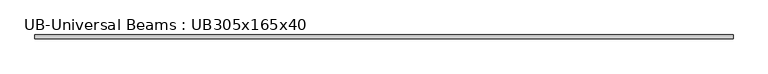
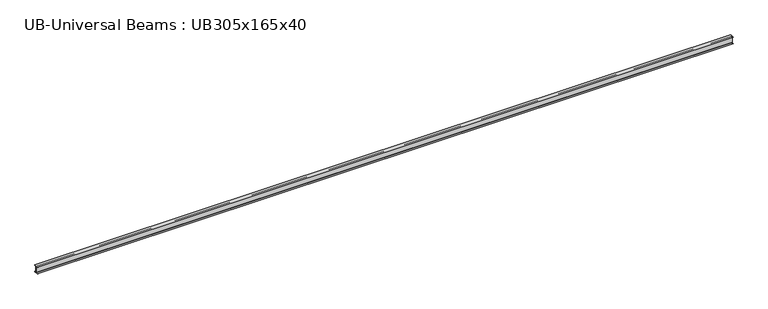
"""IFC4 building model written with IfcOpenShell, lengths in millimetres: beam geometry, UB-Universal Beams : UB305x165x40."""

import ifcopenshell
import ifcopenshell.guid

model = None  # the IFC model being written
_history = None  # IfcOwnerHistory: only IFC2X3 demands one
_inside = {}  # id of a spatial element -> (the spatial element, [elements in it])
_under = {}  # id of a project, library or spatial element -> (it, [spatial elements below it])
_declared = {}  # id of a project -> (the project, [libraries it declares])
_typed = {}  # id of a type object -> (the type object, [elements of that type])
_made_of = {}  # id of a material, layer set ... -> (it, [elements and type objects made of it])


def new_model(schema):
    """Start an empty IFC model of exactly this schema.

    Asked for "IFC4X3", IfcOpenShell would pick the latest addendum, in which some entities
    have other attributes; the version numbers below select the first issue.
    IFC2X3 requires an IfcOwnerHistory on every rooted entity: one is made here for all.
    """
    global model, _history
    if schema == "IFC4X3":
        model = ifcopenshell.file(schema_version=(4, 3, 0, 0))
    else:
        model = ifcopenshell.file(schema=schema)
    _inside.clear()
    _under.clear()
    _declared.clear()
    _typed.clear()
    _made_of.clear()
    _history = None
    if model.schema == "IFC2X3":
        org = make("IfcOrganization", Name="unknown")
        user = make(
            "IfcPersonAndOrganization",
            ThePerson=make("IfcPerson", FamilyName="unknown"),
            TheOrganization=org,
        )
        app = make(
            "IfcApplication",
            ApplicationDeveloper=org,
            Version="unknown",
            ApplicationFullName="unknown",
            ApplicationIdentifier="unknown",
        )
        _history = make(
            "IfcOwnerHistory",
            OwningUser=user,
            OwningApplication=app,
            ChangeAction="ADDED",
            CreationDate=0,
        )
    return model


def make(cls, **values):
    """One entity of the class cls with the attributes given. An attribute that is None is left unset."""
    return model.create_entity(
        cls, **{name: value for name, value in values.items() if value is not None}
    )


def rooted(cls, **values):
    """An entity with a GlobalId (a new one), such as an element, a storey or a relation."""
    return make(cls, GlobalId=ifcopenshell.guid.new(), OwnerHistory=_history, **values)


def si_unit(unit_type, name, prefix=None):
    """IfcSIUnit, for example si_unit("LENGTHUNIT", "METRE", prefix="MILLI")."""
    return make("IfcSIUnit", UnitType=unit_type, Prefix=prefix, Name=name)


def assignment(units):
    """IfcUnitAssignment: the units of a project."""
    return None if units is None else make("IfcUnitAssignment", Units=units)


def point(xyz):
    """IfcCartesianPoint."""
    return None if xyz is None else make("IfcCartesianPoint", Coordinates=xyz)


def direction(xyz):
    """IfcDirection."""
    return None if xyz is None else make("IfcDirection", DirectionRatios=xyz)


def frame(location, z_axis=None, x_axis=None):
    """IfcAxis2Placement3D, a coordinate frame: its origin and axes. An axis left out is left unset."""
    return make(
        "IfcAxis2Placement3D",
        Location=point(location),
        Axis=direction(z_axis),
        RefDirection=direction(x_axis),
    )


def frame_2d(location, x_axis=None):
    """IfcAxis2Placement2D, a coordinate frame in the plane: its origin and x axis."""
    return make(
        "IfcAxis2Placement2D", Location=point(location), RefDirection=direction(x_axis)
    )


def origin():
    """The frame at (0, 0, 0) with its axes left unset."""
    return frame((0.0, 0.0, 0.0))


def place(relative_to, where):
    """IfcLocalPlacement: puts the frame where relative to a parent placement (None: the world)."""
    return make(
        "IfcLocalPlacement", PlacementRelTo=relative_to, RelativePlacement=where
    )


def context(
    kind, dimensions, precision=None, world=None, true_north=None, identifier=None
):
    """IfcGeometricRepresentationContext, for example the 3D "Model" context."""
    return make(
        "IfcGeometricRepresentationContext",
        ContextIdentifier=identifier,
        ContextType=kind,
        CoordinateSpaceDimension=dimensions,
        Precision=precision,
        WorldCoordinateSystem=world,
        TrueNorth=true_north,
    )


def project(units=None, contexts=None):
    """IfcProject with its units and contexts."""
    return rooted(
        "IfcProject",
        Name="project",
        RepresentationContexts=contexts,
        UnitsInContext=assignment(units),
    )


def spatial(cls, under=None, at=None, **own):
    """A site, building, storey or space (cls), placed at a placement, below another one or the project."""
    s = rooted(cls, ObjectPlacement=at, **own)
    if under is not None:
        _under.setdefault(under.id(), (under, []))[1].append(s)
    return s


def polyline(points):
    """IfcPolyline through the points."""
    return make("IfcPolyline", Points=[point(p) for p in points])


def circle_curve(where, radius):
    """IfcCircle in the frame where."""
    return make("IfcCircle", Position=where, Radius=radius)


def trimmed(basis, trim1, trim2, sense, master):
    """IfcTrimmedCurve: the piece of a basis curve between two trims."""
    return make(
        "IfcTrimmedCurve",
        BasisCurve=basis,
        Trim1=trim1,
        Trim2=trim2,
        SenseAgreement=sense,
        MasterRepresentation=master,
    )


def segment(curve, same_sense, transition):
    """IfcCompositeCurveSegment."""
    return make(
        "IfcCompositeCurveSegment",
        Transition=transition,
        SameSense=same_sense,
        ParentCurve=curve,
    )


def composite_curve(segments, self_intersect=None):
    """IfcCompositeCurve: segments joined end to end."""
    return make("IfcCompositeCurve", Segments=segments, SelfIntersect=self_intersect)


def outline(outer, holes=None, kind="AREA"):
    """IfcArbitraryClosedProfileDef: a profile drawn as a closed curve; with holes, ...WithVoids."""
    if holes is None:
        return make("IfcArbitraryClosedProfileDef", ProfileType=kind, OuterCurve=outer)
    return make(
        "IfcArbitraryProfileDefWithVoids",
        ProfileType=kind,
        OuterCurve=outer,
        InnerCurves=holes,
    )


def extrude(swept, where, along, depth):
    """IfcExtrudedAreaSolid: the profile swept, set in the frame where, extruded along a direction by depth."""
    return make(
        "IfcExtrudedAreaSolid",
        SweptArea=swept,
        Position=where,
        ExtrudedDirection=direction(along),
        Depth=depth,
    )


def shape(context_of_items, identifier, shape_type, items):
    """IfcShapeRepresentation: the items that make up one representation, for example the "Body"."""
    return make(
        "IfcShapeRepresentation",
        ContextOfItems=context_of_items,
        RepresentationIdentifier=identifier,
        RepresentationType=shape_type,
        Items=items,
    )


def source(mapping_origin, context_of_items, identifier, shape_type, items):
    """IfcRepresentationMap: a shape defined once, which mapped items show again and again."""
    return make(
        "IfcRepresentationMap",
        MappingOrigin=mapping_origin,
        MappedRepresentation=shape(context_of_items, identifier, shape_type, items),
    )


def transform(
    local_origin,
    x_axis=None,
    y_axis=None,
    z_axis=None,
    scale=None,
    scale2=None,
    scale3=None,
    uniform=True,
):
    """IfcCartesianTransformationOperator3D, or its non-uniform kind. x_axis, y_axis, z_axis: its Axis1, 2, 3."""
    if uniform:
        return make(
            "IfcCartesianTransformationOperator3D",
            Axis1=direction(x_axis),
            Axis2=direction(y_axis),
            LocalOrigin=point(local_origin),
            Scale=scale,
            Axis3=direction(z_axis),
        )
    return make(
        "IfcCartesianTransformationOperator3DnonUniform",
        Axis1=direction(x_axis),
        Axis2=direction(y_axis),
        LocalOrigin=point(local_origin),
        Scale=scale,
        Axis3=direction(z_axis),
        Scale2=scale2,
        Scale3=scale3,
    )


def mapped(mapping_source, mapping_target):
    """IfcMappedItem: shows the shape of a source again, moved by a transform."""
    return make(
        "IfcMappedItem", MappingSource=mapping_source, MappingTarget=mapping_target
    )


def made_of(thing, what):
    """Note that an element or type object is made of a material, layer set ...; save() writes the relation."""
    if what is not None:
        _made_of.setdefault(what.id(), (what, []))[1].append(thing)
    return thing


def element(
    cls,
    number,
    at=None,
    inside=None,
    cuts=None,
    type_object=None,
    material=None,
    context=None,
    identifier="Body",
    shape_type=None,
    held_by="IfcProductDefinitionShape",
    body=None,
    shapes=None,
    **own,
):
    """One element of the class cls, such as IfcWall. Its Tag is "e" and its number.

    at: its placement. inside: the storey or other place that contains it. cuts: it is an
    opening in that element (IfcRelVoidsElement). A single representation is given by context,
    identifier, shape_type and body (its items); several are given by shapes. held_by: the class
    of the entity that holds the representations. save() writes the other relations.
    """
    e = rooted(cls, Tag="e%d" % number, ObjectPlacement=at, **own)
    if body is not None:
        shapes = [shape(context, identifier, shape_type, body)]
    if shapes is not None:
        e.Representation = make(held_by, Representations=shapes)
    if inside is not None:
        _inside.setdefault(inside.id(), (inside, []))[1].append(e)
    if cuts is not None:
        rooted(
            "IfcRelVoidsElement", RelatingBuildingElement=cuts, RelatedOpeningElement=e
        )
    if type_object is not None:
        _typed.setdefault(type_object.id(), (type_object, []))[1].append(e)
    return made_of(e, material)


def aggregate(whole, parts):
    """IfcRelAggregates: a whole, such as a stair, and the parts it consists of."""
    return rooted("IfcRelAggregates", RelatingObject=whole, RelatedObjects=parts)


def save(model, path):
    """Write the relations noted so far, then the file.

    IfcRelAggregates (storeys below a building ...), IfcRelContainedInSpatialStructure (elements
    in a storey), IfcRelDefinesByType, IfcRelAssociatesMaterial and IfcRelDeclares: one each for
    every whole, place, type object, material and project.
    """
    for whole, parts in _under.values():
        aggregate(whole, parts)
    for where, things in _inside.values():
        rooted(
            "IfcRelContainedInSpatialStructure",
            RelatedElements=things,
            RelatingStructure=where,
        )
    for kind, things in _typed.values():
        rooted("IfcRelDefinesByType", RelatedObjects=things, RelatingType=kind)
    for what, things in _made_of.values():
        rooted("IfcRelAssociatesMaterial", RelatedObjects=things, RelatingMaterial=what)
    for by, libraries in _declared.values():
        rooted("IfcRelDeclares", RelatingContext=by, RelatedDefinitions=libraries)
    model.write(path)


def ub_universal_beams_ub305x165x40_3e4cec4f(model_context):
    return source(origin(), model_context, "Body", "SweptSolid", [
        extrude(outline(composite_curve([segment(polyline([(82.5, -141.5), (82.5, -151.7), (-82.5, -151.7), (-82.5, -141.5), (-11.9, -141.5)]), True, "CONTINUOUS"), segment(trimmed(circle_curve(frame_2d((-11.9, -132.6)), 8.9), [point((-11.9, -141.5))], [point((-3.0, -132.6))], True, "CARTESIAN"), True, "CONTINUOUS"), segment(polyline([(-3.0, -132.6), (-3.0, 132.6)]), True, "CONTINUOUS"), segment(trimmed(circle_curve(frame_2d((-11.9, 132.6)), 8.9), [point((-3.0, 132.6))], [point((-11.9, 141.5))], True, "CARTESIAN"), True, "CONTINUOUS"), segment(polyline([(-11.9, 141.5), (-82.5, 141.5), (-82.5, 151.7), (82.5, 151.7), (82.5, 141.5), (11.9, 141.5)]), True, "CONTINUOUS"), segment(trimmed(circle_curve(frame_2d((11.9, 132.6)), 8.9), [point((11.9, 141.5))], [point((3.0, 132.6))], True, "CARTESIAN"), True, "CONTINUOUS"), segment(polyline([(3.0, 132.6), (3.0, -132.6)]), True, "CONTINUOUS"), segment(trimmed(circle_curve(frame_2d((11.9, -132.6)), 8.9), [point((3.0, -132.6))], [point((11.9, -141.5))], True, "CARTESIAN"), True, "CONTINUOUS"), segment(polyline([(11.9, -141.5), (82.5, -141.5)]), True, "CONTINUOUS")], self_intersect=False)), frame((-15033.25, 0.0, 0.0), z_axis=(1.0, 0.0, 0.0), x_axis=(0.0, 1.0, 0.0)), (0.0, 0.0, 1.0), 29961.5),
    ])


if __name__ == "__main__":
    model = new_model("IFC4")
    model_context = context("Model", 3, world=origin())
    ifc_project = project(units=[si_unit("LENGTHUNIT", "METRE", prefix="MILLI")], contexts=[model_context])
    site = spatial("IfcSite", under=ifc_project)
    building = spatial("IfcBuilding", under=site)
    placement = place(None, origin())
    ub_universal_beams_ub305x165x40_shape = ub_universal_beams_ub305x165x40_3e4cec4f(model_context)
    element("IfcBeam", 1, ObjectType="UB-Universal Beams : UB305x165x40", at=placement, inside=building, context=model_context, shape_type="MappedRepresentation", body=[
        mapped(ub_universal_beams_ub305x165x40_shape, transform((0.0, 0.0, 0.0), x_axis=(1.0, 0.0, 0.0), y_axis=(0.0, 1.0, 0.0), z_axis=(0.0, 0.0, 1.0))),
    ])
    save(model, "model.ifc")
